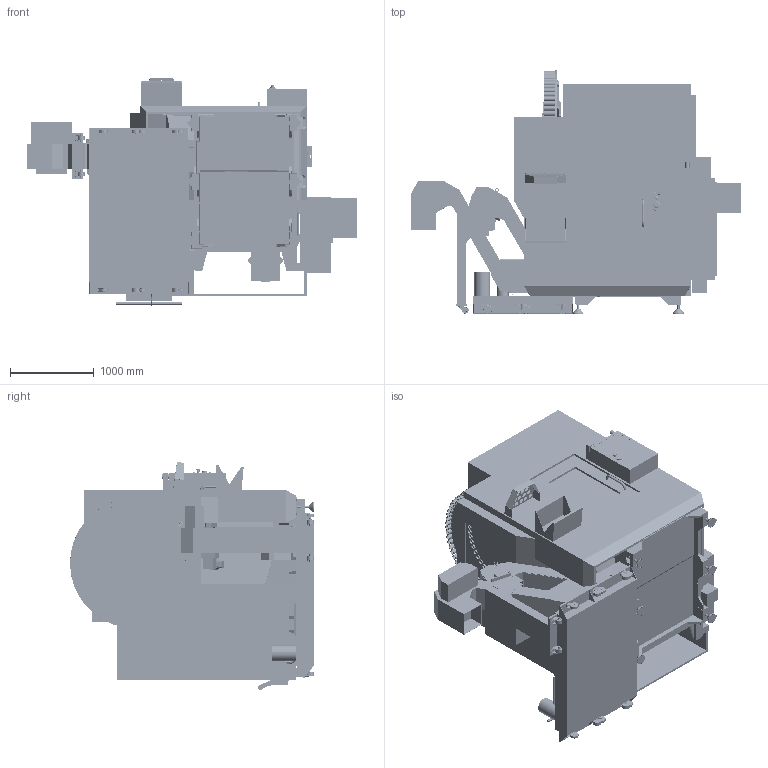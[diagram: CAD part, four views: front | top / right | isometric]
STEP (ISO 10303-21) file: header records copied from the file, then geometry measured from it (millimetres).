
FILE_DESCRIPTION (( 'STEP AP203' ), '1' );
FILE_NAME ('UMC-500_4_2026.STEP', '2026-04-01T20:54:26', ( '' ), ( '' ), 'SwSTEP 2.0', 'SolidWorks 2025', '' );
FILE_SCHEMA (( 'CONFIG_CONTROL_DESIGN' ));
Products named in the file (28): UMC 500- Belt Type Conveyor; UMC 500-T Slot Platter; UMC 500- 70 Pkt Tool Changer; UMC-500- Tool Changer Arm Down; UMC 500- Anchor Pattern; UMC 500- WIPS; UMC 500- 30 Pkt Tool Changer; UMC 500- 50 Pkt Tool Changer; UMC 500- 40 Taper Spindle; UMC-500-Auto Door; UMC 500- 95 Gallon Tank; UMC 500- Blank Platter; UMC-500_4_2026; umc 500- 55 gallon tank; umc 500- Leveling Pads; UMC 500- HSK Spindle; UMC 500- Enclosure; UMC 500-Filter Conveyor; UMC 500- Base Casting; UMC 500- CDF Conveyor; UMC 500- Y Axis; UMC 500- Control Panel; UMC 500- X Axis; UMC 500- Tooling Plate; UMC-500- Tool Changer Arm Up; UMC 500- Trunnion; UMC 500- Z Axis; UMC 500- Auto Window
Assembly tree (27 placements, depth 2):
  UMC-500_4_2026
    UMC 500- Base Casting
    umc 500- Leveling Pads
    UMC 500- Anchor Pattern
    UMC 500- Trunnion
    UMC 500- Tooling Plate
    UMC 500- Blank Platter
    UMC 500-T Slot Platter
    UMC 500- WIPS
    UMC 500- X Axis
    UMC 500- Y Axis
    UMC 500- Z Axis
    UMC 500- 40 Taper Spindle
    UMC 500- HSK Spindle
    UMC-500- Tool Changer Arm Up
    UMC-500- Tool Changer Arm Down
    UMC 500- Enclosure
    UMC 500- Auto Window
    UMC 500- Control Panel
    UMC 500- 30 Pkt Tool Changer
    UMC 500- 50 Pkt Tool Changer
    UMC 500- 70 Pkt Tool Changer
    umc 500- 55 gallon tank
    UMC 500- 95 Gallon Tank
    UMC 500- Belt Type Conveyor
    UMC 500- CDF Conveyor
    UMC 500-Filter Conveyor
    UMC-500-Auto Door
Bounding box: 3938.74 x 2918.97 x 2727.64 mm (x, y, z)
Volume: 4212108551.7 mm3; surface area: 144253631.8 mm2
Topology: 73 solids, 99 shells, 15471 faces, 40948 edges, 26166 vertices
Faces by surface type: plane 8358, cylinder 4123, cone 1379, bspline 1077, torus 387, sphere 147
Entity records: 547641 total; most frequent: CARTESIAN_POINT 170785, ORIENTED_EDGE 81486, DIRECTION 74116, EDGE_CURVE 40743, VERTEX_POINT 26162, AXIS2_PLACEMENT_3D 25717, LINE 22682, VECTOR 22682
